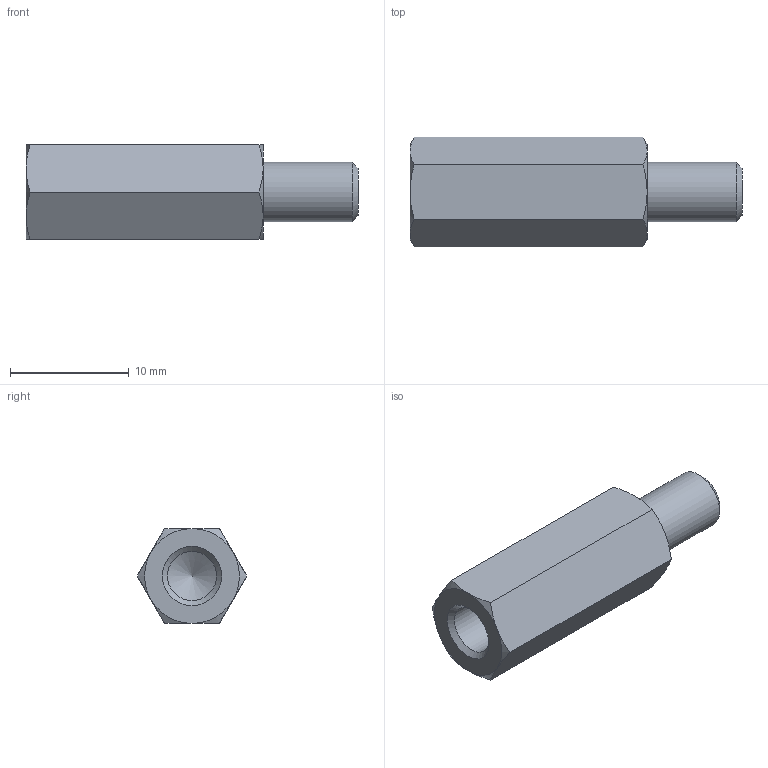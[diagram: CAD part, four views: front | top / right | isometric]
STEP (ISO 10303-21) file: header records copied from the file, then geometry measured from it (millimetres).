
FILE_DESCRIPTION( ( 'STEP AP203' ), '1' );
FILE_NAME( 'C:/Temp/Ganter_Step_05_03_2020/data/3_2/gn6220/gn6220_ni/Stainless Steel-Spacer GN 6220-NI-M5-20-B.stp', '2020-03-13T05:43:12', ( 'License CC BY-ND 4.0' ), ( 'CADENAS' ), ' ', 'PARTsolutions', ' ' );
FILE_SCHEMA( ( 'CONFIG_CONTROL_DESIGN' ) );
Length unit declared in the file: millimetre
Products named in the file (1): _Stainless Steel-Spacer GN 6220-NI-M5-20-B
Bounding box: 28 x 9.24 x 8 mm (x, y, z)
Volume: 1065.3 mm3; surface area: 964.4 mm2
Topology: 1 solids, 1 shells, 26 faces, 55 edges, 32 vertices
Faces by surface type: cone 15, plane 9, cylinder 2
Full cylindrical faces by diameter (mm): 4.134 x1, 5 x1
Entity records: 746 total; most frequent: CARTESIAN_POINT 210, DIRECTION 96, ORIENTED_EDGE 96, EDGE_CURVE 48, AXIS2_PLACEMENT_3D 45, EDGE_LOOP 32, VERTEX_POINT 31, FACE_OUTER_BOUND 28
